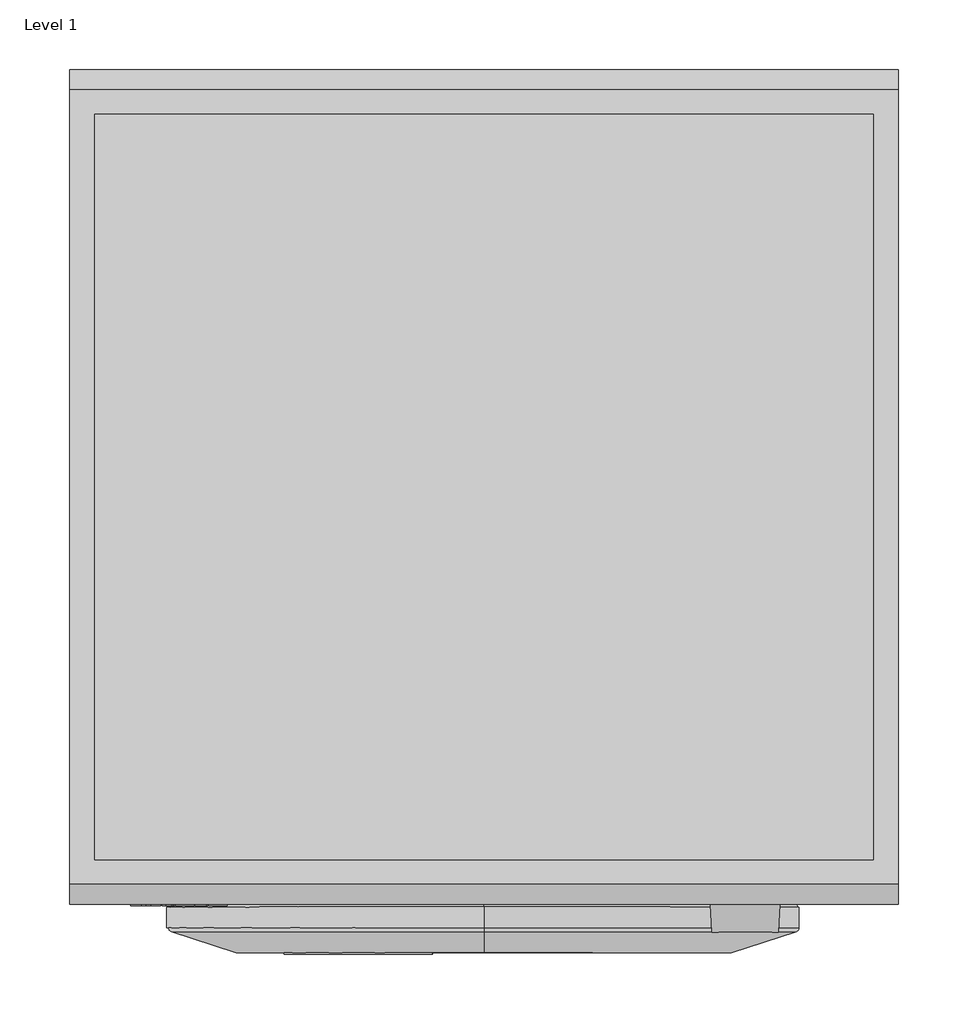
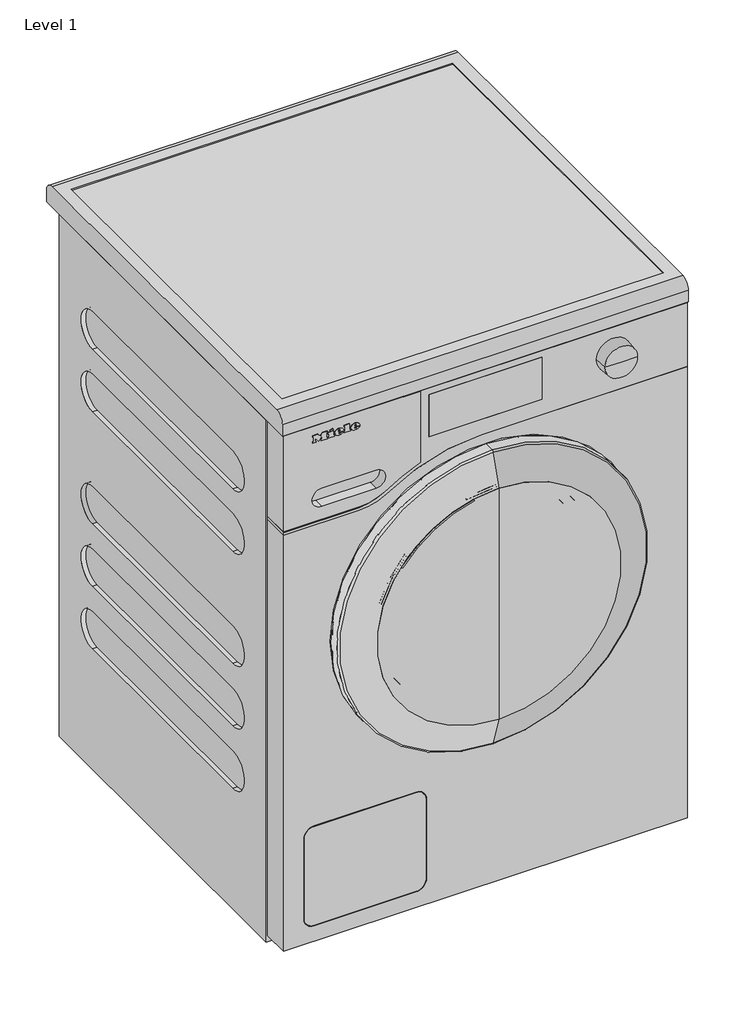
# One storey: 1 proxy.
"""IFC4 building model written with IfcOpenShell, lengths in millimetres."""

from ifc_helpers import new_model, si_unit, origin, place, context, project, spatial, transform, mapped, element, save
from components import specialty_equipment_79eebb6a, specialty_equipment_4a6f3dc0

model = new_model("IFC4")

# Units and contexts
model_context = context("Model", 3, world=origin())
ifc_project = project(units=[si_unit("LENGTHUNIT", "METRE", prefix="MILLI")], contexts=[model_context])

# Site, building, storey
site = spatial("IfcSite", under=ifc_project)
building = spatial("IfcBuilding", under=site)
storey = spatial("IfcBuildingStorey", under=building, Name="Level 1", Elevation=0.0)

# Proxy
placement = place(None, origin())
specialty_equipment_shape = specialty_equipment_79eebb6a(model_context)
specialty_equipment_2_shape = specialty_equipment_4a6f3dc0(model_context)
element("IfcBuildingElementProxy", 1, Name="11360950_I_WED325WCS_LW : 11ED3251_I_11360950_WED325WCS_LW", ObjectType="11360950_I_WED325WCS_LW : 11ED3251_I_11360950_WED325WCS_LW", at=placement, inside=storey, context=model_context, shape_type="MappedRepresentation", body=[
    mapped(specialty_equipment_shape, transform((0.0, 0.0, 0.0), x_axis=(1.0, 0.0, 0.0), y_axis=(0.0, 1.0, 0.0), z_axis=(0.0, 0.0, 1.0))),
    mapped(specialty_equipment_2_shape, transform((0.0, 0.0, 0.0), x_axis=(1.0, 0.0, 0.0), y_axis=(0.0, 1.0, 0.0), z_axis=(0.0, 0.0, 1.0))),
])

save(model, "model.ifc")
